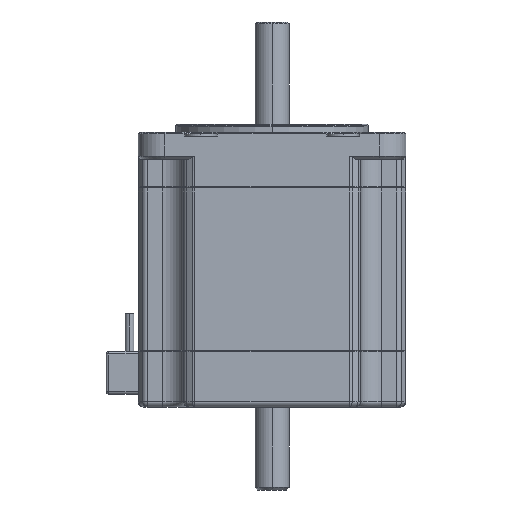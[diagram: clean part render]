
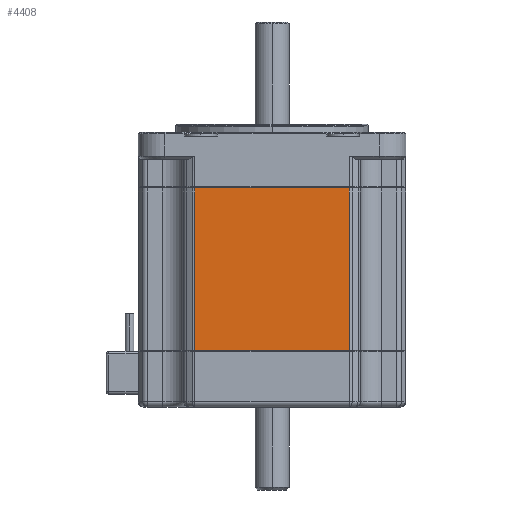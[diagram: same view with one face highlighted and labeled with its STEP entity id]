
A CAD part, left-side view. The second image highlights one B-rep face of the part: STEP entity #4408.
In plain terms, the highlighted planar face has unit normal (-1, 0, 0).
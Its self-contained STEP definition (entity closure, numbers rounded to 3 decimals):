
#367 = LINE ( 'NONE', #368, #1198 ) ;
#368 = CARTESIAN_POINT ( 'NONE',  ( -25., -14.422, -40.9 ) ) ;
#369 = DIRECTION ( 'NONE',  ( 0., 0., 1. ) ) ;
#373 = LINE ( 'NONE', #374, #1199 ) ;
#374 = CARTESIAN_POINT ( 'NONE',  ( -25., -14.422, -40.7 ) ) ;
#375 = DIRECTION ( 'NONE',  ( 0., -1., 0. ) ) ;
#376 = LINE ( 'NONE', #377, #1201 ) ;
#377 = CARTESIAN_POINT ( 'NONE',  ( -25., 14.422, -40.9 ) ) ;
#378 = DIRECTION ( 'NONE',  ( 0., 0., 1. ) ) ;
#379 = LINE ( 'NONE', #380, #1203 ) ;
#380 = CARTESIAN_POINT ( 'NONE',  ( -25., 14.422, -10.4 ) ) ;
#381 = DIRECTION ( 'NONE',  ( 0., 1., 0. ) ) ;
#1198 = VECTOR ( 'NONE', #369, 1000. ) ;
#1199 = VECTOR ( 'NONE', #375, 1000. ) ;
#1201 = VECTOR ( 'NONE', #378, 1000. ) ;
#1203 = VECTOR ( 'NONE', #381, 1000. ) ;
#3940 = EDGE_LOOP ( 'NONE', ( #8468, #8470, #8469, #8471 ) ) ;
#4408 = ADVANCED_FACE ( 'NONE', ( #11517 ), #11846, .F. ) ;
#6242 = VERTEX_POINT ( 'NONE', #15985 ) ;
#6243 = VERTEX_POINT ( 'NONE', #15986 ) ;
#6244 = VERTEX_POINT ( 'NONE', #15987 ) ;
#6245 = VERTEX_POINT ( 'NONE', #15988 ) ;
#8468 = ORIENTED_EDGE ( 'NONE', *, *, #9185, .F. ) ;
#8469 = ORIENTED_EDGE ( 'NONE', *, *, #9182, .T. ) ;
#8470 = ORIENTED_EDGE ( 'NONE', *, *, #9184, .T. ) ;
#8471 = ORIENTED_EDGE ( 'NONE', *, *, #9186, .T. ) ;
#9182 = EDGE_CURVE ( 'NONE', #6242, #6243, #367, .T. ) ;
#9184 = EDGE_CURVE ( 'NONE', #6244, #6242, #373, .T. ) ;
#9185 = EDGE_CURVE ( 'NONE', #6244, #6245, #376, .T. ) ;
#9186 = EDGE_CURVE ( 'NONE', #6243, #6245, #379, .T. ) ;
#11517 = FACE_OUTER_BOUND ( 'NONE', #3940, .T. ) ;
#11522 = AXIS2_PLACEMENT_3D ( 'NONE', #11847, #11848, #11849 ) ;
#11846 = PLANE ( 'NONE',  #11522 ) ;
#11847 = CARTESIAN_POINT ( 'NONE',  ( -25., 14.422, -40.9 ) ) ;
#11848 = DIRECTION ( 'NONE',  ( 1., 0., 0. ) ) ;
#11849 = DIRECTION ( 'NONE',  ( 0., 1., 0. ) ) ;
#15985 = CARTESIAN_POINT ( 'NONE',  ( -25., -14.422, -40.7 ) ) ;
#15986 = CARTESIAN_POINT ( 'NONE',  ( -25., -14.422, -10.4 ) ) ;
#15987 = CARTESIAN_POINT ( 'NONE',  ( -25., 14.422, -40.7 ) ) ;
#15988 = CARTESIAN_POINT ( 'NONE',  ( -25., 14.422, -10.4 ) ) ;
